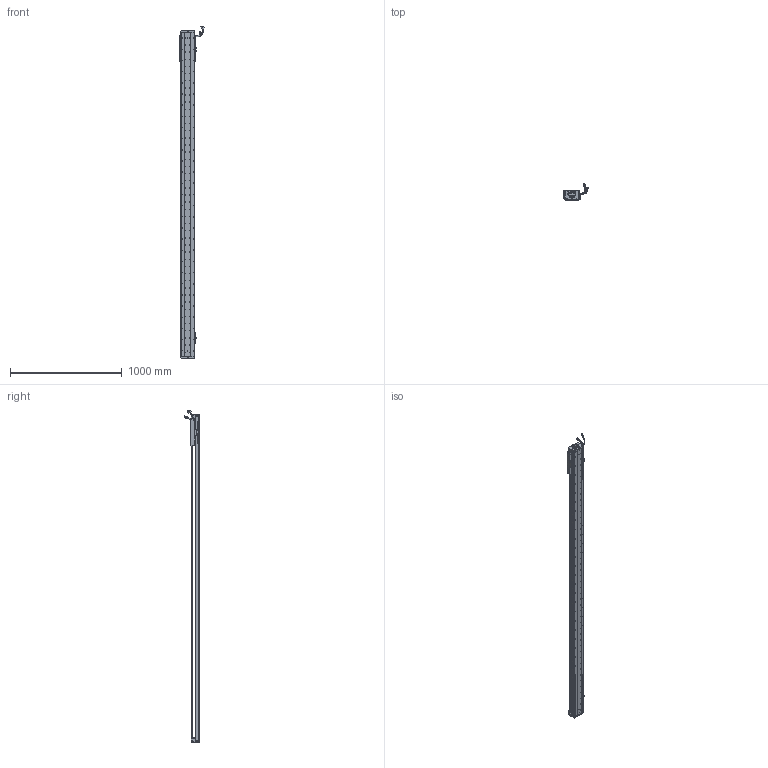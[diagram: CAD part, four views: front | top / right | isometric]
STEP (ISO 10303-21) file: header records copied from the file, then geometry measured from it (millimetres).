
FILE_DESCRIPTION (( 'STEP AP203' ), '1' );
FILE_NAME ('Z3-RY120D-1-L500-B-K.SLDASM_2600.step', '2021-05-17T05:50:46', ( '盈信电脑' ), ( '东莞市道滘镇水果街19号' ), 'SwSTEP 2.0', 'SolidWorks 2016', '' );
FILE_SCHEMA (( 'CONFIG_CONTROL_DESIGN' ));
Length unit declared in the file: millimetre
Products named in the file (37): SCALE; SHIELDPLATE; SCALE-Part-1; HARNESS-Part-1; COVER; LABEL; COVER-Part-1; Z3-RY120铝滑块（21款）; 榋妏寠巭燃_暯_M2_2; 120-Z-臏賑輸盄裔(21遴); LABEL-Part-1; HARNESS-Part-2; PBU_SHEET; SEAL-Part-1; 080黍杅芛假蚾釱21遴; Z3-RY120D-1-L500-B-K.SLDASM_2600; 140雄赽晤鎢ん堤盄; HARNESS; RY100FB-遵嫖萇覜茼え; Z-120詩湍傷裔啣; 672嫖萇羲壽假蚾釱; SCREW-M1.7-1; SCREW-M1.6-3; PSLH080_PSLF2; Z3-RY120-L500詩湍100mm遵_2600; 140蚥薯蝶輸; SCREW-M1.6; 覜茼ん672; SCREW-M1.6-2; Z-RY120D詩湍奻揤裔; SCREW-M1.7; Z3-RY120-500-倰第菁釱_2600; Z-RY120D詩湍狟揤裔; HOLDER0; SCREW-M1.6-1; SCALE-Part-2; SEAL
Assembly tree (43 placements, depth 4):
  Z3-RY120D-1-L500-B-K.SLDASM_2600
    Z3-RY120-500-倰第菁釱_2600
    覜茼ん672  x3
    672嫖萇羲壽假蚾釱  x2
    Z3-RY120铝滑块（21款）
    PSLH080_PSLF2
      SCALE
        SCALE-Part-1
        SCALE-Part-2
      HARNESS
        HARNESS-Part-1
        HARNESS-Part-2
      LABEL
        LABEL-Part-1
      COVER
        COVER-Part-1
      SEAL
        SEAL-Part-1
      榋妏寠巭燃_暯_M2_2
      SHIELDPLATE
      SCREW-M1.7
      SCREW-M1.7-1
      PBU_SHEET
      SCREW-M1.6
      SCREW-M1.6-1
      SCREW-M1.6-2
      SCREW-M1.6-3
      HOLDER0
    080黍杅芛假蚾釱21遴
    120-Z-臏賑輸盄裔(21遴)
    140雄赽晤鎢ん堤盄
    140蚥薯蝶輸  x2
    RY100FB-遵嫖萇覜茼え
    Z-120詩湍傷裔啣  x2
    Z-RY120D詩湍奻揤裔  x2
    Z-RY120D詩湍狟揤裔  x2
    Z3-RY120-L500詩湍100mm遵_2600
Bounding box: 222.83 x 140.94 x 2973.99 mm (x, y, z)
Volume: 6889314.4 mm3; surface area: 2416002.2 mm2
Topology: 38 solids, 38 shells, 3861 faces, 11071 edges, 6982 vertices
Faces by surface type: cylinder 2061, plane 1272, cone 406, torus 69, bspline 53
Entity records: 131402 total; most frequent: CARTESIAN_POINT 40827, ORIENTED_EDGE 18854, DIRECTION 17147, EDGE_CURVE 9427, AXIS2_PLACEMENT_3D 6352, VERTEX_POINT 6102, VECTOR 4443, LINE 4443
